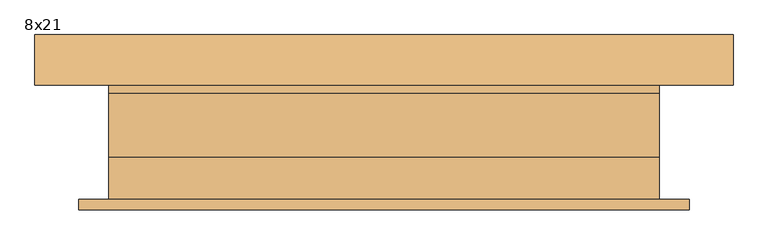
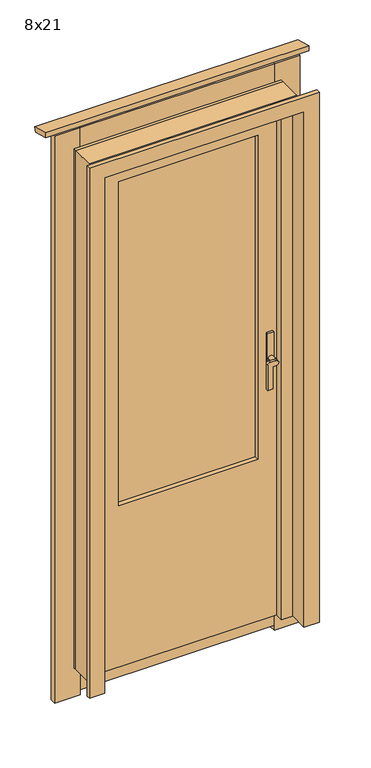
"""IFC4 building model written with IfcOpenShell, lengths in millimetres: door geometry, Balkongdor BD : 8x21."""

import ifcopenshell
import ifcopenshell.guid

model = None  # the IFC model being written
_history = None  # IfcOwnerHistory: only IFC2X3 demands one
_inside = {}  # id of a spatial element -> (the spatial element, [elements in it])
_under = {}  # id of a project, library or spatial element -> (it, [spatial elements below it])
_declared = {}  # id of a project -> (the project, [libraries it declares])
_typed = {}  # id of a type object -> (the type object, [elements of that type])
_made_of = {}  # id of a material, layer set ... -> (it, [elements and type objects made of it])


def new_model(schema):
    """Start an empty IFC model of exactly this schema.

    Asked for "IFC4X3", IfcOpenShell would pick the latest addendum, in which some entities
    have other attributes; the version numbers below select the first issue.
    IFC2X3 requires an IfcOwnerHistory on every rooted entity: one is made here for all.
    """
    global model, _history
    if schema == "IFC4X3":
        model = ifcopenshell.file(schema_version=(4, 3, 0, 0))
    else:
        model = ifcopenshell.file(schema=schema)
    _inside.clear()
    _under.clear()
    _declared.clear()
    _typed.clear()
    _made_of.clear()
    _history = None
    if model.schema == "IFC2X3":
        org = make("IfcOrganization", Name="unknown")
        user = make(
            "IfcPersonAndOrganization",
            ThePerson=make("IfcPerson", FamilyName="unknown"),
            TheOrganization=org,
        )
        app = make(
            "IfcApplication",
            ApplicationDeveloper=org,
            Version="unknown",
            ApplicationFullName="unknown",
            ApplicationIdentifier="unknown",
        )
        _history = make(
            "IfcOwnerHistory",
            OwningUser=user,
            OwningApplication=app,
            ChangeAction="ADDED",
            CreationDate=0,
        )
    return model


def make(cls, **values):
    """One entity of the class cls with the attributes given. An attribute that is None is left unset."""
    return model.create_entity(
        cls, **{name: value for name, value in values.items() if value is not None}
    )


def rooted(cls, **values):
    """An entity with a GlobalId (a new one), such as an element, a storey or a relation."""
    return make(cls, GlobalId=ifcopenshell.guid.new(), OwnerHistory=_history, **values)


def si_unit(unit_type, name, prefix=None):
    """IfcSIUnit, for example si_unit("LENGTHUNIT", "METRE", prefix="MILLI")."""
    return make("IfcSIUnit", UnitType=unit_type, Prefix=prefix, Name=name)


def assignment(units):
    """IfcUnitAssignment: the units of a project."""
    return None if units is None else make("IfcUnitAssignment", Units=units)


def point(xyz):
    """IfcCartesianPoint."""
    return None if xyz is None else make("IfcCartesianPoint", Coordinates=xyz)


def direction(xyz):
    """IfcDirection."""
    return None if xyz is None else make("IfcDirection", DirectionRatios=xyz)


def frame(location, z_axis=None, x_axis=None):
    """IfcAxis2Placement3D, a coordinate frame: its origin and axes. An axis left out is left unset."""
    return make(
        "IfcAxis2Placement3D",
        Location=point(location),
        Axis=direction(z_axis),
        RefDirection=direction(x_axis),
    )


def frame_2d(location, x_axis=None):
    """IfcAxis2Placement2D, a coordinate frame in the plane: its origin and x axis."""
    return make(
        "IfcAxis2Placement2D", Location=point(location), RefDirection=direction(x_axis)
    )


def origin():
    """The frame at (0, 0, 0) with its axes left unset."""
    return frame((0.0, 0.0, 0.0))


def place(relative_to, where):
    """IfcLocalPlacement: puts the frame where relative to a parent placement (None: the world)."""
    return make(
        "IfcLocalPlacement", PlacementRelTo=relative_to, RelativePlacement=where
    )


def context(
    kind, dimensions, precision=None, world=None, true_north=None, identifier=None
):
    """IfcGeometricRepresentationContext, for example the 3D "Model" context."""
    return make(
        "IfcGeometricRepresentationContext",
        ContextIdentifier=identifier,
        ContextType=kind,
        CoordinateSpaceDimension=dimensions,
        Precision=precision,
        WorldCoordinateSystem=world,
        TrueNorth=true_north,
    )


def project(units=None, contexts=None):
    """IfcProject with its units and contexts."""
    return rooted(
        "IfcProject",
        Name="project",
        RepresentationContexts=contexts,
        UnitsInContext=assignment(units),
    )


def spatial(cls, under=None, at=None, **own):
    """A site, building, storey or space (cls), placed at a placement, below another one or the project."""
    s = rooted(cls, ObjectPlacement=at, **own)
    if under is not None:
        _under.setdefault(under.id(), (under, []))[1].append(s)
    return s


def polyline(points):
    """IfcPolyline through the points."""
    return make("IfcPolyline", Points=[point(p) for p in points])


def circle_curve(where, radius):
    """IfcCircle in the frame where."""
    return make("IfcCircle", Position=where, Radius=radius)


def trimmed(basis, trim1, trim2, sense, master):
    """IfcTrimmedCurve: the piece of a basis curve between two trims."""
    return make(
        "IfcTrimmedCurve",
        BasisCurve=basis,
        Trim1=trim1,
        Trim2=trim2,
        SenseAgreement=sense,
        MasterRepresentation=master,
    )


def segment(curve, same_sense, transition):
    """IfcCompositeCurveSegment."""
    return make(
        "IfcCompositeCurveSegment",
        Transition=transition,
        SameSense=same_sense,
        ParentCurve=curve,
    )


def composite_curve(segments, self_intersect=None):
    """IfcCompositeCurve: segments joined end to end."""
    return make("IfcCompositeCurve", Segments=segments, SelfIntersect=self_intersect)


def outline(outer, holes=None, kind="AREA"):
    """IfcArbitraryClosedProfileDef: a profile drawn as a closed curve; with holes, ...WithVoids."""
    if holes is None:
        return make("IfcArbitraryClosedProfileDef", ProfileType=kind, OuterCurve=outer)
    return make(
        "IfcArbitraryProfileDefWithVoids",
        ProfileType=kind,
        OuterCurve=outer,
        InnerCurves=holes,
    )


def extrude(swept, where, along, depth):
    """IfcExtrudedAreaSolid: the profile swept, set in the frame where, extruded along a direction by depth."""
    return make(
        "IfcExtrudedAreaSolid",
        SweptArea=swept,
        Position=where,
        ExtrudedDirection=direction(along),
        Depth=depth,
    )


def faces_of(points, faces, orient=None, outer=None):
    """IfcFace entities. A face is a list of loops; a loop is a list of indices into points, from 0.

    orient and outer hold one flag for each loop. By default every Orientation is true, the
    first loop of a face is its IfcFaceOuterBound and the others are IfcFaceBound.
    """
    made = []
    for i, loops in enumerate(faces):
        bounds = []
        for j, loop in enumerate(loops):
            is_outer = j == 0 if outer is None else outer[i][j]
            bounds.append(
                make(
                    "IfcFaceOuterBound" if is_outer else "IfcFaceBound",
                    Bound=make("IfcPolyLoop", Polygon=[points[k] for k in loop]),
                    Orientation=True if orient is None else orient[i][j],
                )
            )
        made.append(make("IfcFace", Bounds=bounds))
    return made


def faceted_brep(points, faces, orient=None, outer=None, voids=None):
    """IfcFacetedBrep: a solid bounded by flat faces; with voids (closed shells), ...WithVoids."""
    shared = [point(p) for p in points]
    hull = make("IfcClosedShell", CfsFaces=faces_of(shared, faces, orient, outer))
    if voids is None:
        return make("IfcFacetedBrep", Outer=hull)
    return make(
        "IfcFacetedBrepWithVoids",
        Outer=hull,
        Voids=[
            make(cls, CfsFaces=faces_of(shared, fs, o, b)) for cls, fs, o, b in voids
        ],
    )


def shape(context_of_items, identifier, shape_type, items):
    """IfcShapeRepresentation: the items that make up one representation, for example the "Body"."""
    return make(
        "IfcShapeRepresentation",
        ContextOfItems=context_of_items,
        RepresentationIdentifier=identifier,
        RepresentationType=shape_type,
        Items=items,
    )


def source(mapping_origin, context_of_items, identifier, shape_type, items):
    """IfcRepresentationMap: a shape defined once, which mapped items show again and again."""
    return make(
        "IfcRepresentationMap",
        MappingOrigin=mapping_origin,
        MappedRepresentation=shape(context_of_items, identifier, shape_type, items),
    )


def transform(
    local_origin,
    x_axis=None,
    y_axis=None,
    z_axis=None,
    scale=None,
    scale2=None,
    scale3=None,
    uniform=True,
):
    """IfcCartesianTransformationOperator3D, or its non-uniform kind. x_axis, y_axis, z_axis: its Axis1, 2, 3."""
    if uniform:
        return make(
            "IfcCartesianTransformationOperator3D",
            Axis1=direction(x_axis),
            Axis2=direction(y_axis),
            LocalOrigin=point(local_origin),
            Scale=scale,
            Axis3=direction(z_axis),
        )
    return make(
        "IfcCartesianTransformationOperator3DnonUniform",
        Axis1=direction(x_axis),
        Axis2=direction(y_axis),
        LocalOrigin=point(local_origin),
        Scale=scale,
        Axis3=direction(z_axis),
        Scale2=scale2,
        Scale3=scale3,
    )


def mapped(mapping_source, mapping_target):
    """IfcMappedItem: shows the shape of a source again, moved by a transform."""
    return make(
        "IfcMappedItem", MappingSource=mapping_source, MappingTarget=mapping_target
    )


def made_of(thing, what):
    """Note that an element or type object is made of a material, layer set ...; save() writes the relation."""
    if what is not None:
        _made_of.setdefault(what.id(), (what, []))[1].append(thing)
    return thing


def element(
    cls,
    number,
    at=None,
    inside=None,
    cuts=None,
    type_object=None,
    material=None,
    context=None,
    identifier="Body",
    shape_type=None,
    held_by="IfcProductDefinitionShape",
    body=None,
    shapes=None,
    **own,
):
    """One element of the class cls, such as IfcWall. Its Tag is "e" and its number.

    at: its placement. inside: the storey or other place that contains it. cuts: it is an
    opening in that element (IfcRelVoidsElement). A single representation is given by context,
    identifier, shape_type and body (its items); several are given by shapes. held_by: the class
    of the entity that holds the representations. save() writes the other relations.
    """
    e = rooted(cls, Tag="e%d" % number, ObjectPlacement=at, **own)
    if body is not None:
        shapes = [shape(context, identifier, shape_type, body)]
    if shapes is not None:
        e.Representation = make(held_by, Representations=shapes)
    if inside is not None:
        _inside.setdefault(inside.id(), (inside, []))[1].append(e)
    if cuts is not None:
        rooted(
            "IfcRelVoidsElement", RelatingBuildingElement=cuts, RelatedOpeningElement=e
        )
    if type_object is not None:
        _typed.setdefault(type_object.id(), (type_object, []))[1].append(e)
    return made_of(e, material)


def aggregate(whole, parts):
    """IfcRelAggregates: a whole, such as a stair, and the parts it consists of."""
    return rooted("IfcRelAggregates", RelatingObject=whole, RelatedObjects=parts)


def save(model, path):
    """Write the relations noted so far, then the file.

    IfcRelAggregates (storeys below a building ...), IfcRelContainedInSpatialStructure (elements
    in a storey), IfcRelDefinesByType, IfcRelAssociatesMaterial and IfcRelDeclares: one each for
    every whole, place, type object, material and project.
    """
    for whole, parts in _under.values():
        aggregate(whole, parts)
    for where, things in _inside.values():
        rooted(
            "IfcRelContainedInSpatialStructure",
            RelatedElements=things,
            RelatingStructure=where,
        )
    for kind, things in _typed.values():
        rooted("IfcRelDefinesByType", RelatedObjects=things, RelatingType=kind)
    for what, things in _made_of.values():
        rooted("IfcRelAssociatesMaterial", RelatedObjects=things, RelatingMaterial=what)
    for by, libraries in _declared.values():
        rooted("IfcRelDeclares", RelatingContext=by, RelatedDefinitions=libraries)
    model.write(path)


def plane_surface(at):
    """IfcPlane: the flat surface through the origin of the frame at, square to its z axis."""
    return make("IfcPlane", Position=at)


def cylinder_surface(at, radius):
    """IfcCylindricalSurface: all points at the distance radius from the z axis of the frame at."""
    return make("IfcCylindricalSurface", Position=at, Radius=radius)


def advanced_brep(points, edges, surfaces, faces):
    """IfcAdvancedBrep: a solid bounded by faces that lie on surfaces and meet in shared edges.

    An edge is (start, end): straight between two places in points (the first is 0);
    or (start, end, curve); or (start, end, curve, False) where it runs against its curve.
    A face is (place in surfaces, loops), or (place, loops, False) where it looks against
    its surface's normal. A loop lists edges by number (the first is 1), with a minus sign
    where the edge is run from its end to its start. The first loop is the outer one.
    """
    corners = [point(p) for p in points]
    vertices = [make("IfcVertexPoint", VertexGeometry=c) for c in corners]
    made = []
    for start, end, *more in edges:
        made.append(
            make(
                "IfcEdgeCurve",
                EdgeStart=vertices[start],
                EdgeEnd=vertices[end],
                EdgeGeometry=more[0] if more else make("IfcPolyline", Points=[corners[start], corners[end]]),
                SameSense=more[1] if len(more) > 1 else True,
            )
        )
    hull = []
    for where, loops, *sense in faces:
        bounds = []
        for j, loop in enumerate(loops):
            ring = [make("IfcOrientedEdge", EdgeElement=made[abs(k) - 1], Orientation=k > 0) for k in loop]
            bounds.append(
                make(
                    "IfcFaceOuterBound" if j == 0 else "IfcFaceBound",
                    Bound=make("IfcEdgeLoop", EdgeList=ring),
                    Orientation=True,
                )
            )
        hull.append(make("IfcAdvancedFace", Bounds=bounds, FaceSurface=surfaces[where], SameSense=sense[0] if sense else True))
    return make("IfcAdvancedBrep", Outer=make("IfcClosedShell", CfsFaces=hull))


def door_8x21_59f2acf3(model_context):
    return source(origin(), model_context, "Body", "SolidModel", [
        extrude(outline(polyline([(321.0, 80.0), (321.0, 70.0), (297.0, 70.0), (297.0, 80.0), (321.0, 80.0)])), frame((0.0, 0.0, 1020.0), z_axis=(0.0, 0.0, 1.0), x_axis=(1.0, 0.0, 0.0)), (0.0, 0.0, 1.0), 130.0),
        extrude(outline(composite_curve([segment(trimmed(circle_curve(frame_2d((1050.0, 287.0)), 10.0), [point((1060.0, 287.0))], [point((1050.0, 277.0))], False, "CARTESIAN"), True, "CONTINUOUS"), segment(polyline([(1050.0, 277.0), (950.0, 277.0), (950.0, 297.0), (1040.0, 297.0), (1040.0, 309.0)]), True, "CONTINUOUS"), segment(trimmed(circle_curve(frame_2d((1050.0, 309.0)), 10.0), [point((1040.0, 309.0))], [point((1060.0, 309.0))], False, "CARTESIAN"), True, "CONTINUOUS"), segment(polyline([(1060.0, 309.0), (1060.0, 287.0)]), True, "CONTINUOUS")], self_intersect=False)), frame((0.0, 105.0, 0.0), z_axis=(0.0, 1.0, 0.0), x_axis=(0.0, 0.0, 1.0)), (0.0, 0.0, 1.0), 10.0),
        extrude(outline(composite_curve([segment(trimmed(circle_curve(frame_2d((1050.0, 309.0)), 10.0), [point((1050.0, 319.0))], [point((1050.0, 299.0))], False, "CARTESIAN"), True, "CONTINUOUS"), segment(trimmed(circle_curve(frame_2d((1050.0, 309.0)), 10.0), [point((1050.0, 299.0))], [point((1050.0, 319.0))], False, "CARTESIAN"), True, "CONTINUOUS")], self_intersect=False)), frame((0.0, 80.0, 0.0), z_axis=(0.0, 1.0, 0.0), x_axis=(0.0, 0.0, 1.0)), (0.0, 0.0, 1.0), 25.0),
        extrude(outline(polyline([(297.0, 0.0), (297.0, 10.0), (321.0, 10.0), (321.0, 0.0), (297.0, 0.0)])), frame((0.0, 0.0, 1020.0), z_axis=(0.0, 0.0, 1.0), x_axis=(1.0, 0.0, 0.0)), (0.0, 0.0, 1.0), 130.0),
        advanced_brep(
        [(287.0, -35.0, 1060.0), (277.0, -35.0, 1050.0), (277.0, -35.0, 950.0), (297.0, -35.0, 950.0), (297.0, -35.0, 1040.0), (309.0, -35.0, 1040.0), (309.0, -35.0, 1060.0), (287.0, -25.0, 1060.0), (309.0, -25.0, 1060.0), (299.0, -25.0, 1050.0), (309.0, -25.0, 1040.0), (297.0, -25.0, 1040.0), (297.0, -25.0, 950.0), (277.0, -25.0, 950.0), (277.0, -25.0, 1050.0), (319.0, -25.0, 1050.0), (319.0, 0.0, 1050.0), (299.0, 0.0, 1050.0)],
        [
            (0, 1, circle_curve(frame((287.0, -35.0, 1050.0), z_axis=(0.0, -1.0, 0.0), x_axis=(-1.0, 0.0, 0.0)), 10.0)),
            (1, 2),
            (2, 3),
            (3, 4),
            (4, 5),
            (5, 6, circle_curve(frame((309.0, -35.0, 1050.0), z_axis=(0.0, -1.0, 0.0), x_axis=(-1.0, 0.0, 0.0)), 10.0)),
            (6, 0),
            (7, 8),
            (8, 9, circle_curve(frame((309.0, -25.0, 1050.0), z_axis=(0.0, -1.0, 0.0), x_axis=(-1.0, 0.0, 0.0)), 10.0)),
            (9, 10, circle_curve(frame((309.0, -25.0, 1050.0), z_axis=(0.0, -1.0, 0.0), x_axis=(-1.0, 0.0, 0.0)), 10.0)),
            (10, 11),
            (11, 12),
            (12, 13),
            (13, 14),
            (14, 7, circle_curve(frame((287.0, -25.0, 1050.0), z_axis=(0.0, 1.0, 0.0), x_axis=(-1.0, 0.0, 0.0)), 10.0)),
            (6, 8),
            (7, 0),
            (5, 10),
            (10, 15, circle_curve(frame((309.0, -25.0, 1050.0), z_axis=(0.0, -1.0, 0.0), x_axis=(-1.0, 0.0, 0.0)), 10.0)),
            (15, 8, circle_curve(frame((309.0, -25.0, 1050.0), z_axis=(0.0, -1.0, 0.0), x_axis=(-1.0, 0.0, 0.0)), 10.0)),
            (4, 11),
            (3, 12),
            (2, 13),
            (1, 14),
            (16, 17, circle_curve(frame((309.0, 0.0, 1050.0), z_axis=(0.0, 1.0, 0.0), x_axis=(-1.0, 0.0, 0.0)), 10.0)),
            (17, 16, circle_curve(frame((309.0, 0.0, 1050.0), z_axis=(0.0, 1.0, 0.0), x_axis=(-1.0, 0.0, 0.0)), 10.0)),
            (16, 15),
            (9, 17),
        ],
        [
            plane_surface(frame((309.0, -35.0, 1060.0), z_axis=(0.0, -1.0, 0.0), x_axis=(1.0, 0.0, 0.0))),
            plane_surface(frame((309.0, -25.0, 1060.0), z_axis=(0.0, 1.0, 0.0), x_axis=(-1.0, 0.0, 0.0))),
            plane_surface(frame((287.0, -35.0, 1060.0), z_axis=(0.0, 0.0, 1.0), x_axis=(0.0, 1.0, 0.0))),
            cylinder_surface(frame((309.0, -25.0, 1050.0), z_axis=(0.0, -1.0, 0.0), x_axis=(-1.0, 0.0, 0.0)), 10.0),
            plane_surface(frame((309.0, -35.0, 1040.0), z_axis=(0.0, 0.0, -1.0), x_axis=(0.0, 1.0, 0.0))),
            plane_surface(frame((297.0, -35.0, 1040.0), z_axis=(1.0, 0.0, 0.0), x_axis=(0.0, 1.0, 0.0))),
            plane_surface(frame((297.0, -35.0, 950.0), z_axis=(0.0, 0.0, -1.0), x_axis=(0.0, 1.0, 0.0))),
            plane_surface(frame((277.0, -35.0, 950.0), z_axis=(-1.0, 0.0, 0.0), x_axis=(0.0, 1.0, 0.0))),
            cylinder_surface(frame((287.0, -25.0, 1050.0), z_axis=(0.0, -1.0, 0.0), x_axis=(-1.0, 0.0, 0.0)), 10.0),
            plane_surface(frame((299.0, 0.0, 1050.0), z_axis=(0.0, 1.0, 0.0), x_axis=(0.0, 0.0, -1.0))),
            cylinder_surface(frame((309.0, 0.0, 1050.0), z_axis=(0.0, -1.0, 0.0), x_axis=(-1.0, 0.0, 0.0)), 10.0),
        ],
        [
            (0, [[1, 2, 3, 4, 5, 6, 7]]),
            (1, [[8, 9, 10, 11, 12, 13, 14, 15]]),
            (2, [[16, -8, 17, -7]]),
            (3, [[18, 19, 20, -16, -6]]),
            (4, [[21, -11, -18, -5]]),
            (5, [[22, -12, -21, -4]]),
            (6, [[23, -13, -22, -3]]),
            (7, [[24, -14, -23, -2]]),
            (8, [[-17, -15, -24, -1]]),
            (9, [[25, 26]]),
            (10, [[27, -19, -10, 28, -25]]),
            (10, [[-28, -9, -20, -27, -26]]),
        ],
    ),
        extrude(outline(polyline([(-370.0, 82.0), (-370.0, 104.0), (370.0, 104.0), (370.0, 82.0), (-370.0, 82.0)])), frame((0.0, 0.0, 2065.0), z_axis=(0.0, 0.0, 1.0), x_axis=(1.0, 0.0, 0.0)), (0.0, 0.0, 1.0), 98.0),
        extrude(outline(polyline([(154.444437, 2168.9885716), (149.5268751, 2150.6359809), (82.0, 2168.7297526), (82.0, 2188.4), (154.444437, 2168.9885716)])), frame((-501.0, 0.0, 0.0), z_axis=(1.0, 0.0, 0.0), x_axis=(0.0, 1.0, 0.0)), (0.0, 0.0, 1.0), 1002.0),
        extrude(outline(polyline([(468.0, 82.0), (370.0, 82.0), (370.0, 104.0), (468.0, 104.0), (468.0, 82.0)])), frame((0.0, 0.0, -118.0), z_axis=(0.0, 0.0, 1.0), x_axis=(1.0, 0.0, 0.0)), (0.0, 0.0, 1.0), 2281.0),
        extrude(outline(polyline([(-370.0, 82.0), (-468.0, 82.0), (-468.0, 104.0), (-370.0, 104.0), (-370.0, 82.0)])), frame((0.0, 0.0, -118.0), z_axis=(0.0, 0.0, 1.0), x_axis=(1.0, 0.0, 0.0)), (0.0, 0.0, 1.0), 2281.0),
        extrude(outline(polyline([(-370.0, 82.0), (-370.0, 104.0), (370.0, 104.0), (370.0, 82.0), (-370.0, 82.0)])), frame((0.0, 0.0, -97.9948268), z_axis=(0.0, 0.0, 1.0), x_axis=(1.0, 0.0, 0.0)), (0.0, 0.0, 1.0), 97.9948268),
        faceted_brep([(395.0, -22.0, 0.0), (337.0, -22.0, 0.0), (337.0, 10.0, 0.0), (355.0, 10.0, 0.0), (355.0, 70.0, 0.0), (395.0, 70.0, 0.0), (395.0, -22.0, 2088.0), (-395.0, -22.0, 2088.0), (-395.0, -22.0, 0.0), (-337.0, -22.0, 0.0), (-337.0, -22.0, 2030.0), (337.0, -22.0, 2030.0), (337.0, 10.0, 2030.0), (-337.0, 10.0, 2030.0), (-337.0, 10.0, 0.0), (-355.0, 10.0, 0.0), (-355.0, 10.0, 2048.0), (355.0, 10.0, 2048.0), (355.0, 70.0, 2048.0), (-355.0, 70.0, 2048.0), (-355.0, 70.0, 0.0), (-395.0, 70.0, 0.0), (-395.0, 70.0, 2088.0), (395.0, 70.0, 2088.0)], [[[0, 1, 2, 3, 4, 5]], [[1, 0, 6, 7, 8, 9, 10, 11]], [[2, 1, 11, 12]], [[3, 2, 12, 13, 14, 15, 16, 17]], [[4, 3, 17, 18]], [[5, 4, 18, 19, 20, 21, 22, 23]], [[0, 5, 23, 6]], [[7, 22, 21, 8]], [[8, 21, 20, 15, 14, 9]], [[13, 10, 9, 14]], [[19, 16, 15, 20]], [[12, 11, 10, 13]], [[18, 17, 16, 19]], [[6, 23, 22, 7]]]),
        extrude(outline(polyline([(0.0, 370.0), (0.0, 395.0), (2088.0, 395.0), (2088.0, -395.0), (0.0, -395.0), (0.0, -370.0), (2063.0, -370.0), (2063.0, 370.0), (0.0, 370.0)])), frame((0.0, 70.0, 0.0), z_axis=(0.0, 1.0, 0.0), x_axis=(0.0, 0.0, 1.0)), (0.0, 0.0, 1.0), 12.0),
        faceted_brep([(-395.0, -82.0, 0.0), (-395.0, -22.0, 0.0), (-380.0, -22.0, 0.0), (-380.0, -97.0, 0.0), (-438.0, -97.0, 0.0), (-438.0, -82.0, 0.0), (-395.0, -82.0, 2090.0), (-395.0, -22.0, 2090.0), (395.0, -22.0, 2090.0), (395.0, -22.0, 0.0), (380.0, -22.0, 0.0), (380.0, -22.0, 2075.0), (-380.0, -22.0, 2075.0), (-380.0, -97.0, 2075.0), (380.0, -97.0, 2075.0), (380.0, -97.0, 0.0), (438.0, -97.0, 0.0), (438.0, -97.0, 2133.0), (-438.0, -97.0, 2133.0), (-438.0, -82.0, 2133.0), (438.0, -82.0, 2133.0), (438.0, -82.0, 0.0), (395.0, -82.0, 0.0), (395.0, -82.0, 2090.0)], [[[0, 1, 2, 3, 4, 5]], [[1, 0, 6, 7]], [[2, 1, 7, 8, 9, 10, 11, 12]], [[3, 2, 12, 13]], [[4, 3, 13, 14, 15, 16, 17, 18]], [[5, 4, 18, 19]], [[0, 5, 19, 20, 21, 22, 23, 6]], [[8, 23, 22, 9]], [[22, 21, 16, 15, 10, 9]], [[14, 11, 10, 15]], [[20, 17, 16, 21]], [[7, 6, 23, 8]], [[13, 12, 11, 14]], [[19, 18, 17, 20]]]),
        extrude(outline(polyline([(-265.0, 52.0), (265.0, 52.0), (265.0, 28.0), (-265.0, 28.0), (-265.0, 52.0)])), frame((0.0, 0.0, 650.0), z_axis=(0.0, 0.0, 1.0), x_axis=(1.0, 0.0, 0.0)), (0.0, 0.0, 1.0), 1304.0),
        extrude(outline(polyline([(0.0, -355.0), (0.0, 355.0), (2048.0, 355.0), (2048.0, -355.0), (0.0, -355.0)]), holes=[polyline([(1954.0, -265.0), (1954.0, 265.0), (650.0, 265.0), (650.0, -265.0), (1954.0, -265.0)])]), frame((0.0, 10.0, 0.0), z_axis=(0.0, 1.0, 0.0), x_axis=(0.0, 0.0, 1.0)), (0.0, 0.0, 1.0), 60.0),
    ])


if __name__ == "__main__":
    model = new_model("IFC4")
    model_context = context("Model", 3, world=origin())
    ifc_project = project(units=[si_unit("LENGTHUNIT", "METRE", prefix="MILLI")], contexts=[model_context])
    site = spatial("IfcSite", under=ifc_project)
    building = spatial("IfcBuilding", under=site)
    placement = place(None, origin())
    door_8x21_shape = door_8x21_59f2acf3(model_context)
    element("IfcDoor", 1, ObjectType="Balkongdor BD : 8x21", at=placement, inside=building, context=model_context, shape_type="MappedRepresentation", body=[
        mapped(door_8x21_shape, transform((0.0, 0.0, 0.0), x_axis=(1.0, 0.0, 0.0), y_axis=(0.0, 1.0, 0.0), z_axis=(0.0, 0.0, 1.0))),
    ])
    save(model, "model.ifc")
